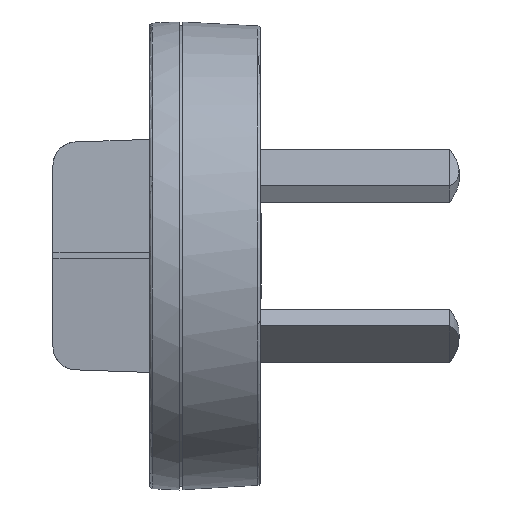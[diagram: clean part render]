
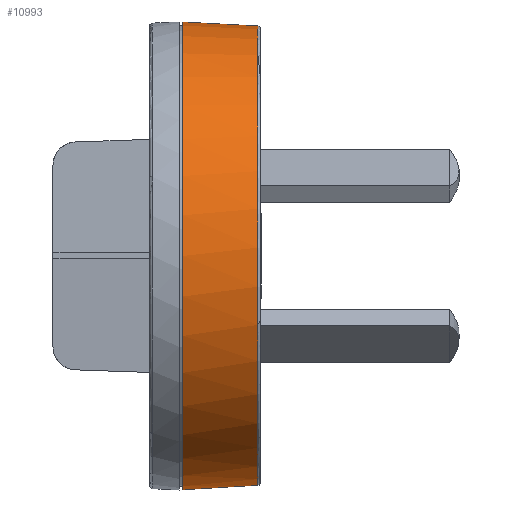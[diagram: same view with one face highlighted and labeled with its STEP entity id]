
A CAD part, left-side view. The second image highlights one B-rep face of the part: STEP entity #10993.
In plain terms, the highlighted conical face has half-angle 3 degrees and reference radius 19.979 mm.
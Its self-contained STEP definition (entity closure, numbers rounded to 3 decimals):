
#78=CONICAL_SURFACE('',#11637,19.979,0.052);
#126=FACE_BOUND('',#1340,.T.);
#216=B_SPLINE_CURVE_WITH_KNOTS('',3,(#16230,#16231,#16232,#16233,#16234,
#16235),.UNSPECIFIED.,.F.,.F.,(4,2,4),(-1.445,-1.356,
-1.267),.UNSPECIFIED.);
#284=ELLIPSE('',#11638,20.7,19.735);
#285=ELLIPSE('',#11639,20.7,19.735);
#531=CIRCLE('',#11633,19.643);
#534=CIRCLE('',#11640,19.979);
#744=FACE_OUTER_BOUND('',#1339,.T.);
#1339=EDGE_LOOP('',(#7389,#7390,#7391,#7392));
#1340=EDGE_LOOP('',(#7393));
#4544=VERTEX_POINT('',#16153);
#4545=VERTEX_POINT('',#16162);
#4550=VERTEX_POINT('',#16227);
#4551=VERTEX_POINT('',#16229);
#4552=VERTEX_POINT('',#16237);
#5670=EDGE_CURVE('',#4544,#4545,#531,.T.);
#5676=EDGE_CURVE('',#4544,#4550,#284,.T.);
#5677=EDGE_CURVE('',#4550,#4551,#216,.T.);
#5678=EDGE_CURVE('',#4551,#4545,#285,.T.);
#5679=EDGE_CURVE('',#4552,#4552,#534,.T.);
#7389=ORIENTED_EDGE('',*,*,#5670,.F.);
#7390=ORIENTED_EDGE('',*,*,#5676,.T.);
#7391=ORIENTED_EDGE('',*,*,#5677,.T.);
#7392=ORIENTED_EDGE('',*,*,#5678,.T.);
#7393=ORIENTED_EDGE('',*,*,#5679,.T.);
#10993=ADVANCED_FACE('',(#744,#126),#78,.T.);
#11633=AXIS2_PLACEMENT_3D('',#16163,#12764,#12765);
#11637=AXIS2_PLACEMENT_3D('',#16226,#12772,#12773);
#11638=AXIS2_PLACEMENT_3D('',#16228,#12774,#12775);
#11639=AXIS2_PLACEMENT_3D('',#16236,#12776,#12777);
#11640=AXIS2_PLACEMENT_3D('',#16238,#12778,#12779);
#12764=DIRECTION('center_axis',(0.,-1.,0.));
#12765=DIRECTION('ref_axis',(0.,0.,-1.));
#12772=DIRECTION('center_axis',(0.,1.,0.));
#12773=DIRECTION('ref_axis',(0.,0.,1.));
#12774=DIRECTION('center_axis',(0.,0.954,0.301));
#12775=DIRECTION('ref_axis',(0.,0.301,-0.954));
#12776=DIRECTION('center_axis',(0.,0.954,-0.301));
#12777=DIRECTION('ref_axis',(0.,-0.301,-0.954));
#12778=DIRECTION('center_axis',(0.,-1.,0.));
#12779=DIRECTION('ref_axis',(0.,0.,1.));
#16153=CARTESIAN_POINT('',(0.922,-22.01,5.413));
#16162=CARTESIAN_POINT('',(0.922,-22.01,-5.413));
#16163=CARTESIAN_POINT('Origin',(-17.96,-22.01,0.));
#16226=CARTESIAN_POINT('Origin',(-17.96,-15.6,0.));
#16227=CARTESIAN_POINT('',(1.737,-20.586,0.904));
#16228=CARTESIAN_POINT('Origin',(-17.96,-20.197,-0.327));
#16229=CARTESIAN_POINT('',(1.737,-20.586,-0.904));
#16230=CARTESIAN_POINT('Ctrl Pts',(1.737,-20.586,0.904));
#16231=CARTESIAN_POINT('Ctrl Pts',(1.756,-20.492,0.606));
#16232=CARTESIAN_POINT('Ctrl Pts',(1.765,-20.446,0.296));
#16233=CARTESIAN_POINT('Ctrl Pts',(1.765,-20.446,-0.296));
#16234=CARTESIAN_POINT('Ctrl Pts',(1.756,-20.492,-0.606));
#16235=CARTESIAN_POINT('Ctrl Pts',(1.737,-20.586,-0.904));
#16236=CARTESIAN_POINT('Origin',(-17.96,-20.197,0.327));
#16237=CARTESIAN_POINT('',(-17.96,-15.6,19.979));
#16238=CARTESIAN_POINT('Origin',(-17.96,-15.6,0.));
